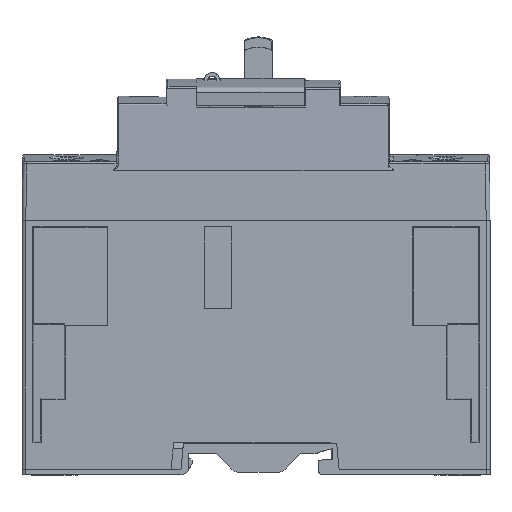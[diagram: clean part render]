
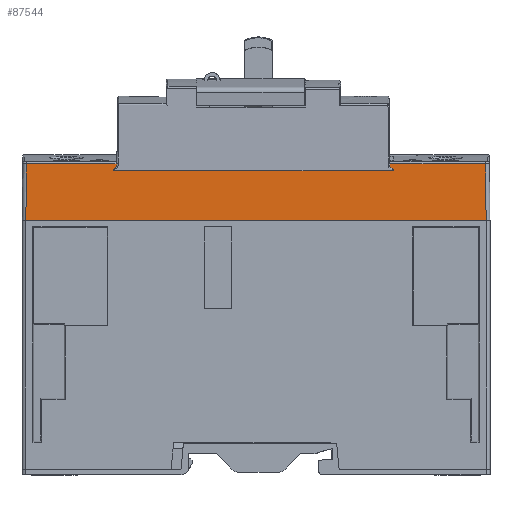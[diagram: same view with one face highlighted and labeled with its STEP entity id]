
A CAD part, left-side view. The second image highlights one B-rep face of the part: STEP entity #87544.
In plain terms, the highlighted planar face has unit normal (-1, 0, 0.007) as drawn and (0, 1, 0.007) by its records, which use the part's own axes.
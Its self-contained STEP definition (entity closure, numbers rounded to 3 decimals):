
#1288 = CARTESIAN_POINT ( 'NONE',  ( -14.292, 27.622, 150.242 ) ) ;
#5603 = CARTESIAN_POINT ( 'NONE',  ( -39.129, 27.716, 136.125 ) ) ;
#5654 = CARTESIAN_POINT ( 'NONE',  ( 55.988, 27.62, 150.477 ) ) ;
#8788 = ORIENTED_EDGE ( 'NONE', *, *, #128250, .F. ) ;
#8838 = DIRECTION ( 'NONE',  ( -0.009, -0.007, 1. ) ) ;
#9394 = ORIENTED_EDGE ( 'NONE', *, *, #143416, .F. ) ;
#11214 = CARTESIAN_POINT ( 'NONE',  ( -39.129, 27.716, 136.125 ) ) ;
#13205 = VERTEX_POINT ( 'NONE', #127592 ) ;
#15442 = VERTEX_POINT ( 'NONE', #5603 ) ;
#16130 = DIRECTION ( 'NONE',  ( -0.001, -0.007, 1. ) ) ;
#16674 = LINE ( 'NONE', #53845, #85428 ) ;
#17022 = CARTESIAN_POINT ( 'NONE',  ( 56.907, 27.63, 148.939 ) ) ;
#18033 = ORIENTED_EDGE ( 'NONE', *, *, #55965, .F. ) ;
#21590 = ORIENTED_EDGE ( 'NONE', *, *, #109030, .F. ) ;
#23312 = DIRECTION ( 'NONE',  ( 0.786, -0.004, 0.618 ) ) ;
#24258 = CARTESIAN_POINT ( 'NONE',  ( 79.344, 27.619, 150.711 ) ) ;
#27073 = VERTEX_POINT ( 'NONE', #24258 ) ;
#27433 = B_SPLINE_CURVE_WITH_KNOTS ( 'NONE', 3,
 ( #51359, #1288, #98307, #146815 ),
 .UNSPECIFIED., .F., .F.,
 ( 4, 4 ),
 ( 0., 1. ),
 .UNSPECIFIED. ) ;
#29363 = DIRECTION ( 'NONE',  ( 1., 0., 0. ) ) ;
#29967 = CARTESIAN_POINT ( 'NONE',  ( 55.994, 27.623, 150.008 ) ) ;
#30967 = ORIENTED_EDGE ( 'NONE', *, *, #140501, .F. ) ;
#31686 = ORIENTED_EDGE ( 'NONE', *, *, #45063, .F. ) ;
#32721 = CARTESIAN_POINT ( 'NONE',  ( 56.907, 27.63, 148.939 ) ) ;
#32838 = CARTESIAN_POINT ( 'NONE',  ( -15.208, 27.63, 148.939 ) ) ;
#33132 = ORIENTED_EDGE ( 'NONE', *, *, #101374, .T. ) ;
#39992 = CARTESIAN_POINT ( 'NONE',  ( 56.907, 27.628, 149.291 ) ) ;
#40415 = VERTEX_POINT ( 'NONE', #99071 ) ;
#41477 = PLANE ( 'NONE',  #139764 ) ;
#42805 = CARTESIAN_POINT ( 'NONE',  ( 55.994, 27.623, 150.008 ) ) ;
#42815 = CARTESIAN_POINT ( 'NONE',  ( 79.471, 27.716, 136.125 ) ) ;
#45063 = EDGE_CURVE ( 'NONE', #89439, #49430, #143565, .T. ) ;
#49000 = LINE ( 'NONE', #84611, #118646 ) ;
#49430 = VERTEX_POINT ( 'NONE', #152013 ) ;
#51359 = CARTESIAN_POINT ( 'NONE',  ( -14.295, 27.623, 150.008 ) ) ;
#53845 = CARTESIAN_POINT ( 'NONE',  ( 55.986, 27.619, 150.711 ) ) ;
#54149 = CARTESIAN_POINT ( 'NONE',  ( 55.986, 27.619, 150.711 ) ) ;
#55524 = EDGE_CURVE ( 'NONE', #107089, #114259, #113133, .T. ) ;
#55754 = CARTESIAN_POINT ( 'NONE',  ( -39.001, 27.619, 150.711 ) ) ;
#55965 = EDGE_CURVE ( 'NONE', #141652, #15442, #49000, .T. ) ;
#59453 = CARTESIAN_POINT ( 'NONE',  ( -39.001, 27.619, 150.711 ) ) ;
#62646 = EDGE_CURVE ( 'NONE', #15442, #122084, #109029, .T. ) ;
#63311 = VECTOR ( 'NONE', #95317, 1000. ) ;
#66289 = CARTESIAN_POINT ( 'NONE',  ( 55.991, 27.622, 150.242 ) ) ;
#67663 = VECTOR ( 'NONE', #16130, 1000. ) ;
#69093 = LINE ( 'NONE', #32721, #146669 ) ;
#69763 = EDGE_CURVE ( 'NONE', #114259, #85254, #101998, .T. ) ;
#72178 = VECTOR ( 'NONE', #150486, 1000. ) ;
#73484 = ORIENTED_EDGE ( 'NONE', *, *, #62646, .F. ) ;
#74045 = DIRECTION ( 'NONE',  ( -0.009, 0.007, -1. ) ) ;
#78433 = VECTOR ( 'NONE', #91374, 1000. ) ;
#78675 = ORIENTED_EDGE ( 'NONE', *, *, #130518, .T. ) ;
#83970 = LINE ( 'NONE', #120347, #150549 ) ;
#84611 = CARTESIAN_POINT ( 'NONE',  ( -39.001, 27.619, 150.711 ) ) ;
#85254 = VERTEX_POINT ( 'NONE', #39992 ) ;
#85428 = VECTOR ( 'NONE', #141134, 1000. ) ;
#86313 = LINE ( 'NONE', #97677, #158713 ) ;
#87544 = ADVANCED_FACE ( 'NONE', ( #89197 ), #41477, .T. ) ;
#89197 = FACE_OUTER_BOUND ( 'NONE', #89498, .T. ) ;
#89439 = VERTEX_POINT ( 'NONE', #135878 ) ;
#89498 = EDGE_LOOP ( 'NONE', ( #78675, #154749, #103467, #33132, #30967, #73484, #18033, #139119, #21590, #8788, #31686, #9394 ) ) ;
#91374 = DIRECTION ( 'NONE',  ( -1., 0., 0. ) ) ;
#95317 = DIRECTION ( 'NONE',  ( 1., 0., 0. ) ) ;
#97677 = CARTESIAN_POINT ( 'NONE',  ( -15.208, 27.628, 149.291 ) ) ;
#98307 = CARTESIAN_POINT ( 'NONE',  ( -14.29, 27.62, 150.477 ) ) ;
#99071 = CARTESIAN_POINT ( 'NONE',  ( -14.295, 27.623, 150.008 ) ) ;
#99638 = VERTEX_POINT ( 'NONE', #108306 ) ;
#101374 = EDGE_CURVE ( 'NONE', #107089, #27073, #16674, .T. ) ;
#101998 = LINE ( 'NONE', #148898, #110976 ) ;
#103467 = ORIENTED_EDGE ( 'NONE', *, *, #55524, .F. ) ;
#107089 = VERTEX_POINT ( 'NONE', #124875 ) ;
#108306 = CARTESIAN_POINT ( 'NONE',  ( 56.907, 27.63, 148.939 ) ) ;
#109029 = LINE ( 'NONE', #11214, #63311 ) ;
#109030 = EDGE_CURVE ( 'NONE', #40415, #13205, #27433, .T. ) ;
#110976 = VECTOR ( 'NONE', #148098, 1000. ) ;
#113133 = B_SPLINE_CURVE_WITH_KNOTS ( 'NONE', 3,
 ( #54149, #5654, #66289, #42805 ),
 .UNSPECIFIED., .F., .F.,
 ( 4, 4 ),
 ( 0., 1. ),
 .UNSPECIFIED. ) ;
#114259 = VERTEX_POINT ( 'NONE', #29967 ) ;
#118394 = DIRECTION ( 'NONE',  ( 0.001, -0.007, 1. ) ) ;
#118646 = VECTOR ( 'NONE', #74045, 1000. ) ;
#120347 = CARTESIAN_POINT ( 'NONE',  ( 79.471, 27.716, 136.125 ) ) ;
#120887 = LINE ( 'NONE', #59453, #72178 ) ;
#122084 = VERTEX_POINT ( 'NONE', #42815 ) ;
#124875 = CARTESIAN_POINT ( 'NONE',  ( 55.986, 27.619, 150.711 ) ) ;
#125568 = CARTESIAN_POINT ( 'NONE',  ( -40.129, 27.616, 151.148 ) ) ;
#127592 = CARTESIAN_POINT ( 'NONE',  ( -14.287, 27.619, 150.711 ) ) ;
#127735 = LINE ( 'NONE', #17022, #78433 ) ;
#128250 = EDGE_CURVE ( 'NONE', #49430, #40415, #86313, .T. ) ;
#130518 = EDGE_CURVE ( 'NONE', #99638, #85254, #69093, .T. ) ;
#134235 = EDGE_CURVE ( 'NONE', #141652, #13205, #120887, .T. ) ;
#135878 = CARTESIAN_POINT ( 'NONE',  ( -15.208, 27.63, 148.939 ) ) ;
#139119 = ORIENTED_EDGE ( 'NONE', *, *, #134235, .T. ) ;
#139764 = AXIS2_PLACEMENT_3D ( 'NONE', #125568, #152235, #29363 ) ;
#140501 = EDGE_CURVE ( 'NONE', #122084, #27073, #83970, .T. ) ;
#141134 = DIRECTION ( 'NONE',  ( 1., 0., 0. ) ) ;
#141652 = VERTEX_POINT ( 'NONE', #55754 ) ;
#143416 = EDGE_CURVE ( 'NONE', #99638, #89439, #127735, .T. ) ;
#143565 = LINE ( 'NONE', #32838, #67663 ) ;
#146669 = VECTOR ( 'NONE', #118394, 1000. ) ;
#146815 = CARTESIAN_POINT ( 'NONE',  ( -14.287, 27.619, 150.711 ) ) ;
#148098 = DIRECTION ( 'NONE',  ( 0.786, 0.004, -0.618 ) ) ;
#148898 = CARTESIAN_POINT ( 'NONE',  ( 55.994, 27.623, 150.008 ) ) ;
#150486 = DIRECTION ( 'NONE',  ( 1., 0., 0. ) ) ;
#150549 = VECTOR ( 'NONE', #8838, 1000. ) ;
#152013 = CARTESIAN_POINT ( 'NONE',  ( -15.208, 27.628, 149.291 ) ) ;
#152235 = DIRECTION ( 'NONE',  ( 0., 1., 0.007 ) ) ;
#154749 = ORIENTED_EDGE ( 'NONE', *, *, #69763, .F. ) ;
#158713 = VECTOR ( 'NONE', #23312, 1000. ) ;
